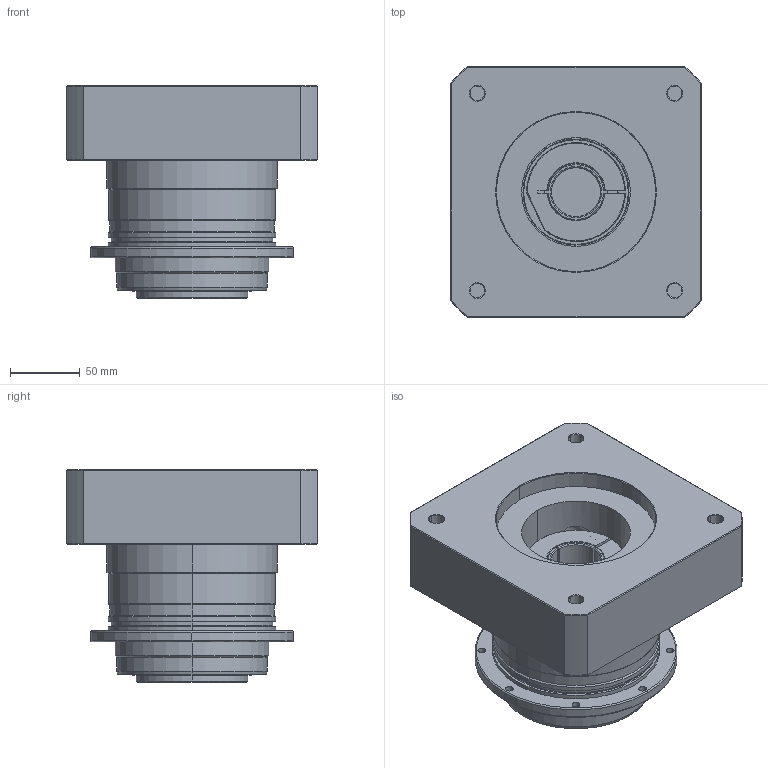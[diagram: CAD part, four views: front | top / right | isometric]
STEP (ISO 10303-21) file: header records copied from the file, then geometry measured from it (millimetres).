
FILE_DESCRIPTION (( 'STEP AP203' ), '1' );
FILE_NAME ('TH110-35-114.3-200-M12-83-12.STEP', '2020-09-07T02:41:29', ( 'Windows 蚚誧' ), ( 'Microsoft' ), 'SwSTEP 2.0', 'SolidWorks 2017', '' );
FILE_SCHEMA (( 'CONFIG_CONTROL_DESIGN' ));
Length unit declared in the file: millimetre
Products named in the file (9): TH110-35-114.3-200-M12-83-12; FLA-114.3-200-12-53.5; 110標杶; 110-medz1; TD110蚾饜极222; TD110綴褲极; TD110-L1-褲极12; TD110; 01
Assembly tree (8 placements, depth 5):
  TH110-35-114.3-200-M12-83-12
    01
      TD110蚾饜极222
        TD110
          TD110-L1-褲极12
          TD110綴褲极
        110-medz1
        110標杶
    FLA-114.3-200-12-53.5
Bounding box: 180 x 180 x 152.5 mm (x, y, z)
Volume: 2263125.7 mm3; surface area: 247433.6 mm2
Topology: 5 solids, 5 shells, 395 faces, 948 edges, 569 vertices
Faces by surface type: cylinder 162, cone 125, plane 82, torus 26
Entity records: 14096 total; most frequent: CARTESIAN_POINT 3890, DIRECTION 2123, ORIENTED_EDGE 1800, EDGE_CURVE 900, AXIS2_PLACEMENT_3D 888, VERTEX_POINT 569, CIRCLE 479, EDGE_LOOP 475
